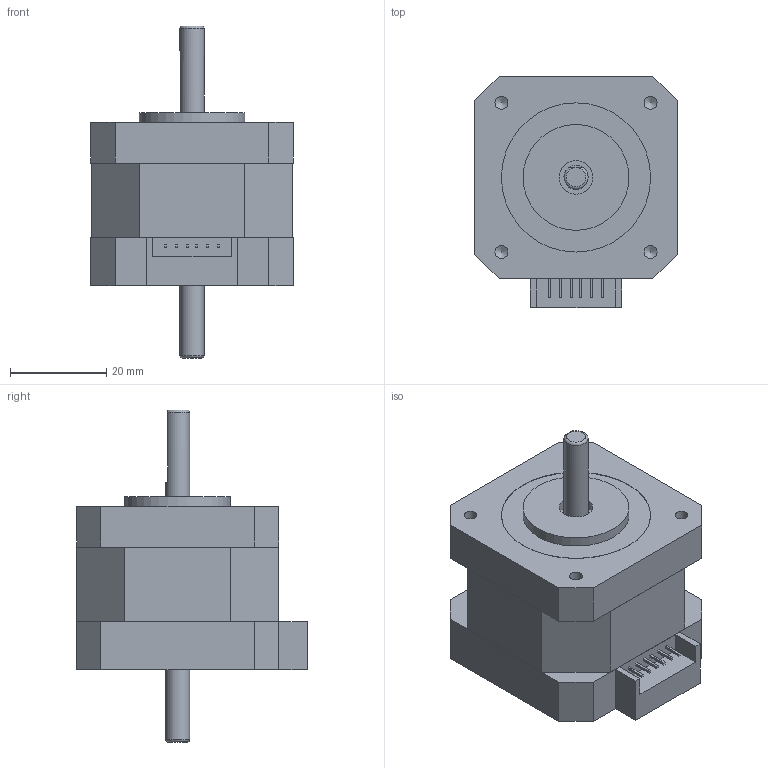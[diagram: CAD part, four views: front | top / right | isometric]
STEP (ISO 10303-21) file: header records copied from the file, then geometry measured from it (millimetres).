
FILE_DESCRIPTION(/* description */ (''),/* implementation_level */ '2;1');
FILE_NAME(/* name */ 'SST43D1066 shuangzhou.stp',/* time_stamp */ '2018-08-13T09:44:37+08:00',/* author */ (''),/* organization */ (''),/* preprocessor_version */ 'ST-DEVELOPER v11',/* originating_system */ 'SIEMENS UGS NX 6.0',/* authorisation */ '');
FILE_SCHEMA (('CONFIG_CONTROL_DESIGN'));
Length unit declared in the file: millimetre
Products named in the file (1): SST43D1066 shuangzhou
Bounding box: 42 x 48 x 69 mm (x, y, z)
Volume: 57630.8 mm3; surface area: 10556.9 mm2
Topology: 1 solids, 2 shells, 161 faces, 401 edges, 268 vertices
Faces by surface type: plane 134, cylinder 17, cone 8, torus 2
Full cylindrical faces by diameter (mm): 2.7 x4, 4.414 x4, 5 x3, 7 x3, 8.5 x1, 22 x1, 31 x1
Entity records: 4555 total; most frequent: CARTESIAN_POINT 785, DIRECTION 721, ORIENTED_EDGE 716, EDGE_CURVE 358, LINE 315, VECTOR 315, VERTEX_POINT 255, EDGE_LOOP 211
